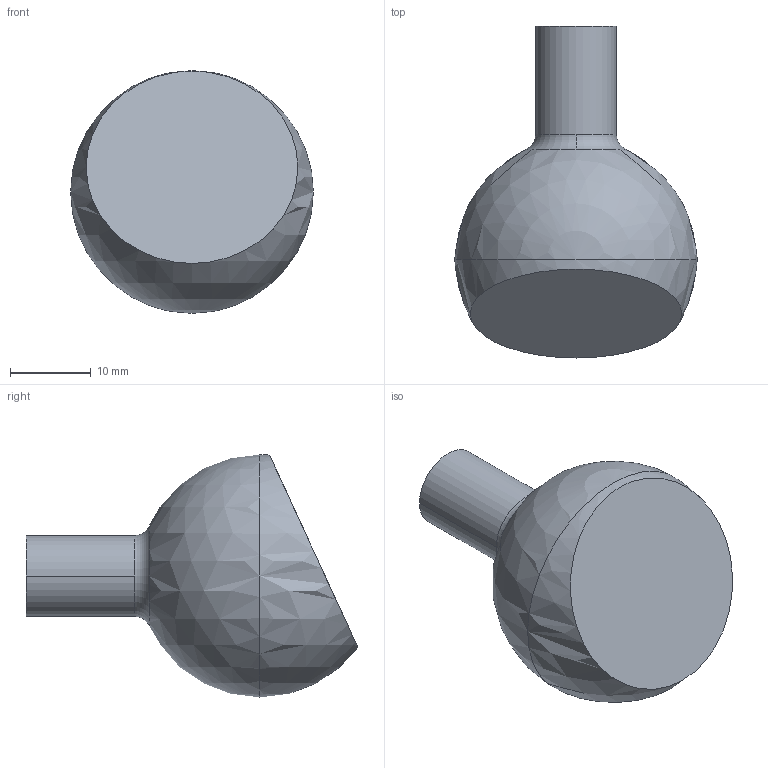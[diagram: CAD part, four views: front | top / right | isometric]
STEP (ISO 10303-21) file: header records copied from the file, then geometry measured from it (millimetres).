
FILE_DESCRIPTION( ( '' ), '1' );
FILE_NAME( 'C:/Documents and Settings/Nikhil/Desktop/Nik/Done/9105751.stp', '2013-10-23T11:18:15', ( '' ), ( '' ), ' ', ' ', ' ' );
FILE_SCHEMA( ( 'automotive_design' ) );
Length unit declared in the file: millimetre
Products named in the file (1): 1
Bounding box: 30 x 41.03 x 30 mm (x, y, z)
Volume: 12874.3 mm3; surface area: 3195.7 mm2
Topology: 1 solids, 1 shells, 11 faces, 27 edges, 17 vertices
Faces by surface type: cylinder 4, plane 3, sphere 2, torus 2
Entity records: 628 total; most frequent: DIRECTION 66, STYLED_ITEM 52, PRESENTATION_STYLE_ASSIGNMENT 52, CARTESIAN_POINT 52, COLOUR_RGB 52, ORIENTED_EDGE 46, AXIS2_PLACEMENT_3D 31, EDGE_CURVE 23
